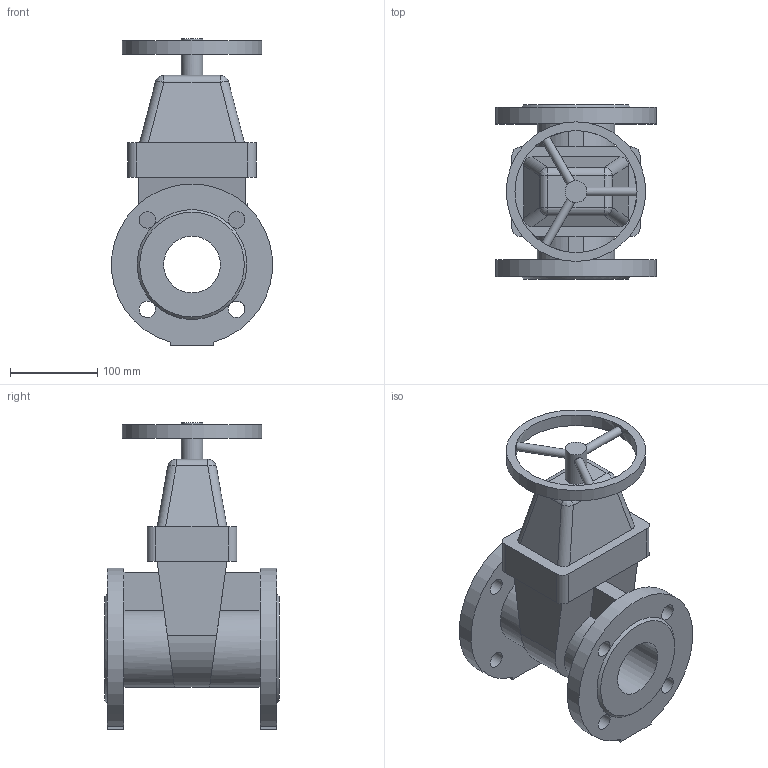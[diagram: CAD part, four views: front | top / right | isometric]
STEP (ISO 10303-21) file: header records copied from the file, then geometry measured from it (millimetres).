
FILE_DESCRIPTION(('STEP AP203'), '1');
FILE_NAME('Çàäâèæêà 47GV DN65 PN10_PN16_L200 ñ ìàõîâèêîì', '', ('UNSPECIFIED'), ('UNSPECIFIED'), 'ASCON STEP Converter 1.6', 'ASCON Math Kernel', '');
FILE_SCHEMA(('CONFIG_CONTROL_DESIGN'));
Length unit declared in the file: millimetre
Bounding box: 184.4 x 200 x 351.5 mm (x, y, z)
Volume: 3315531.2 mm3; surface area: 321716.6 mm2
Topology: 1 solids, 1 shells, 93 faces, 245 edges, 153 vertices
Faces by surface type: plane 47, cylinder 40, bspline 4, cone 2
Full cylindrical faces by diameter (mm): 10 x3, 19 x8, 25 x1, 65 x1, 140 x1, 160 x1
Entity records: 4442 total; most frequent: CARTESIAN_POINT 1508, DIRECTION 436, ORIENTED_EDGE 412, EDGE_CURVE 206, AXIS2_PLACEMENT_3D 158, EDGE_LOOP 146, VERTEX_POINT 144, LINE 120
